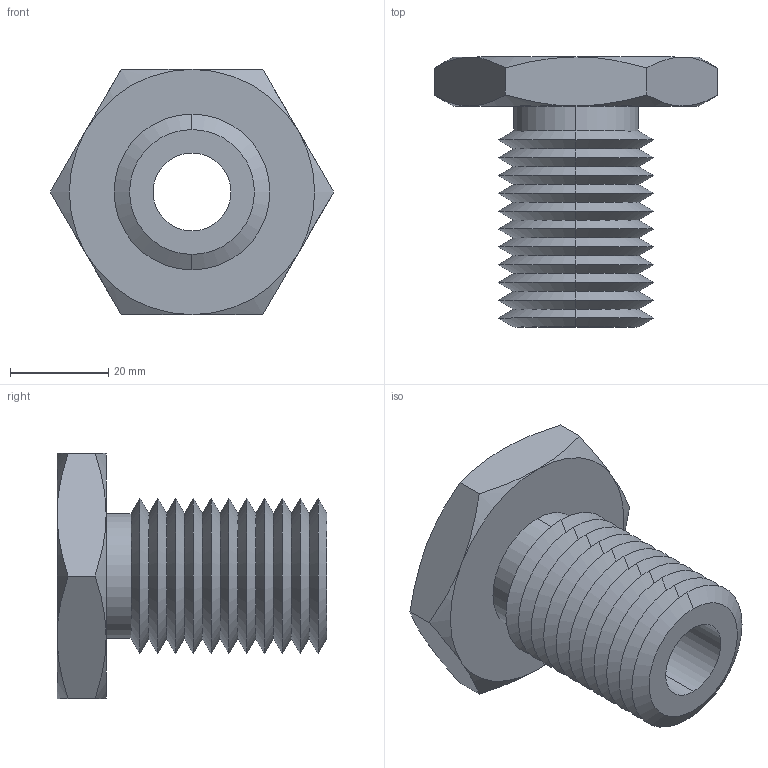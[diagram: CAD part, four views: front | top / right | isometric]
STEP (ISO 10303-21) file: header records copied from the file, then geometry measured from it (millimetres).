
FILE_DESCRIPTION (( 'STEP AP203' ), '1' );
FILE_NAME ('63302.W5125_0,62 UNC-11.step', '2013-12-08T11:59:39', ( 'User' ), ( '' ), 'SwSTEP 2.0', 'SolidWorks 2009', '' );
FILE_SCHEMA (( 'CONFIG_CONTROL_DESIGN' ));
Length unit declared in the file: millimetre
Products named in the file (1): 63302.W5125_0,62 UNC-11
Bounding box: 57.73 x 55 x 50 mm (x, y, z)
Volume: 38688.4 mm3; surface area: 15729 mm2
Topology: 1 solids, 1 shells, 71 faces, 146 edges, 78 vertices
Faces by surface type: cone 58, plane 9, cylinder 4
Entity records: 2039 total; most frequent: CARTESIAN_POINT 480, DIRECTION 332, ORIENTED_EDGE 292, EDGE_CURVE 146, AXIS2_PLACEMENT_3D 138, VERTEX_POINT 78, EDGE_LOOP 74, ADVANCED_FACE 71
